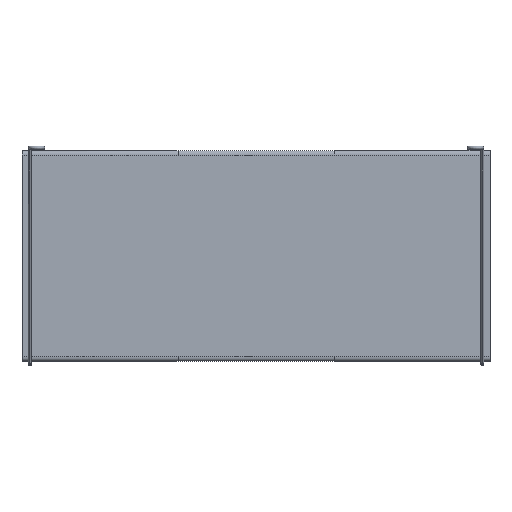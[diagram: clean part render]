
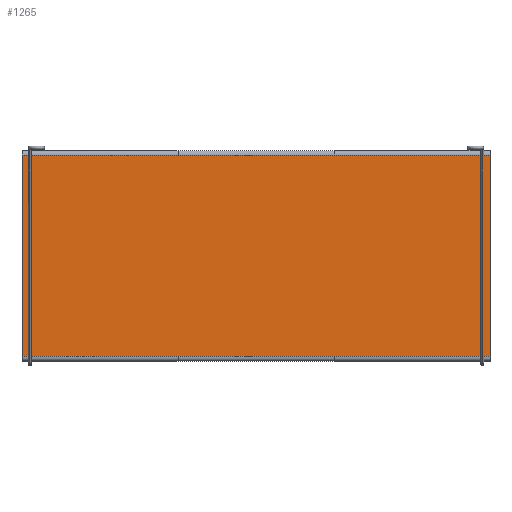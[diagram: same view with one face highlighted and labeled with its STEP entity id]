
A CAD part, top view. The second image highlights one B-rep face of the part: STEP entity #1265.
In plain terms, the highlighted planar face has unit normal (0, 0, 1).
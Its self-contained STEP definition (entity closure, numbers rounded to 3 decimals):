
#726=B_SPLINE_CURVE_WITH_KNOTS('',1,(#23498,#23499),.UNSPECIFIED.,.F.,.F.,
(2,2),(0.,258.),.UNSPECIFIED.);
#727=B_SPLINE_CURVE_WITH_KNOTS('',1,(#23500,#23501),.UNSPECIFIED.,.F.,.F.,
(2,2),(0.,600.),.UNSPECIFIED.);
#728=B_SPLINE_CURVE_WITH_KNOTS('',1,(#23502,#23503),.UNSPECIFIED.,.F.,.F.,
(2,2),(0.,258.),.UNSPECIFIED.);
#729=B_SPLINE_CURVE_WITH_KNOTS('',1,(#23504,#23505),.UNSPECIFIED.,.F.,.F.,
(2,2),(0.,600.),.UNSPECIFIED.);
#1265=ADVANCED_FACE('',(#1761),#7583,.T.);
#1761=FACE_OUTER_BOUND('',#2257,.T.);
#2257=EDGE_LOOP('',(#4577,#4578,#4579,#4580));
#4577=ORIENTED_EDGE('',*,*,#5984,.T.);
#4578=ORIENTED_EDGE('',*,*,#5985,.T.);
#4579=ORIENTED_EDGE('',*,*,#5986,.T.);
#4580=ORIENTED_EDGE('',*,*,#5987,.T.);
#5984=EDGE_CURVE('',#7481,#7482,#726,.T.);
#5985=EDGE_CURVE('',#7482,#7483,#727,.T.);
#5986=EDGE_CURVE('',#7483,#7484,#728,.T.);
#5987=EDGE_CURVE('',#7484,#7481,#729,.T.);
#7481=VERTEX_POINT('',#23490);
#7482=VERTEX_POINT('',#23491);
#7483=VERTEX_POINT('',#23492);
#7484=VERTEX_POINT('',#23493);
#7583=PLANE('',#8289);
#8289=AXIS2_PLACEMENT_3D('',#23484,#8634,$);
#8634=DIRECTION('',(0.,0.,1.));
#23484=CARTESIAN_POINT('',(-3277.544,-19.812,16.));
#23490=CARTESIAN_POINT('',(-2617.532,6.,16.));
#23491=CARTESIAN_POINT('',(-2617.532,264.,16.));
#23492=CARTESIAN_POINT('',(-3217.532,264.,16.));
#23493=CARTESIAN_POINT('',(-3217.532,6.,16.));
#23498=CARTESIAN_POINT('',(-2617.532,6.,16.));
#23499=CARTESIAN_POINT('',(-2617.532,264.,16.));
#23500=CARTESIAN_POINT('',(-2617.532,264.,16.));
#23501=CARTESIAN_POINT('',(-3217.532,264.,16.));
#23502=CARTESIAN_POINT('',(-3217.532,264.,16.));
#23503=CARTESIAN_POINT('',(-3217.532,6.,16.));
#23504=CARTESIAN_POINT('',(-3217.532,6.,16.));
#23505=CARTESIAN_POINT('',(-2617.532,6.,16.));
